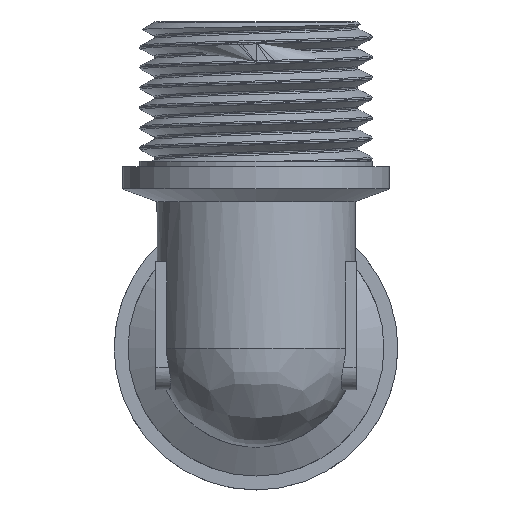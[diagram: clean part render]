
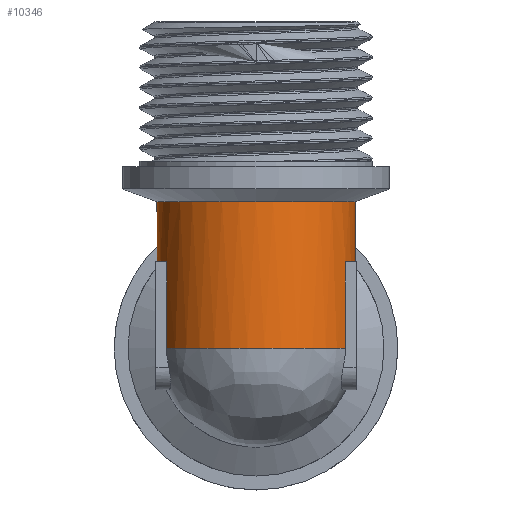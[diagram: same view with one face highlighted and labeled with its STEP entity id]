
A CAD part, front view. The second image highlights one B-rep face of the part: STEP entity #10346.
In plain terms, the highlighted cylindrical face has radius 8.9 mm (diameter 17.8 mm), a full revolution.
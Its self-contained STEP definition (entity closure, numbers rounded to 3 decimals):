
#389=ELLIPSE('',#11032,12.587,8.9);
#1296=CYLINDRICAL_SURFACE('',#11029,8.9);
#1383=FACE_OUTER_BOUND('',#1971,.T.);
#1971=EDGE_LOOP('',(#7087,#7088,#7089,#7090,#7091,#7092,#7093,#7094,#7095,
#7096,#7097,#7098,#7099,#7100,#7101,#7102));
#2610=LINE('',#13535,#3282);
#2611=LINE('',#13539,#3283);
#2612=LINE('',#13547,#3284);
#2613=LINE('',#13551,#3285);
#2614=LINE('',#13555,#3286);
#3282=VECTOR('',#11639,8.9);
#3283=VECTOR('',#11642,10.);
#3284=VECTOR('',#11649,10.);
#3285=VECTOR('',#11652,10.);
#3286=VECTOR('',#11655,10.);
#3969=CIRCLE('',#11026,8.9);
#3970=CIRCLE('',#11027,8.9);
#3971=CIRCLE('',#11028,8.9);
#3972=CIRCLE('',#11030,8.9);
#3973=CIRCLE('',#11031,8.9);
#3974=CIRCLE('',#11033,8.9);
#3975=CIRCLE('',#11034,8.9);
#3976=CIRCLE('',#11035,8.9);
#3977=CIRCLE('',#11036,8.9);
#4272=VERTEX_POINT('',#13526);
#4273=VERTEX_POINT('',#13527);
#4274=VERTEX_POINT('',#13529);
#4275=VERTEX_POINT('',#13534);
#4276=VERTEX_POINT('',#13536);
#4277=VERTEX_POINT('',#13538);
#4278=VERTEX_POINT('',#13540);
#4279=VERTEX_POINT('',#13542);
#4280=VERTEX_POINT('',#13544);
#4281=VERTEX_POINT('',#13546);
#4282=VERTEX_POINT('',#13548);
#4283=VERTEX_POINT('',#13550);
#4284=VERTEX_POINT('',#13552);
#4285=VERTEX_POINT('',#13554);
#5397=EDGE_CURVE('',#4272,#4273,#3969,.T.);
#5398=EDGE_CURVE('',#4274,#4272,#3970,.T.);
#5400=EDGE_CURVE('',#4273,#4274,#3971,.T.);
#5401=EDGE_CURVE('',#4273,#4275,#2610,.T.);
#5402=EDGE_CURVE('',#4275,#4276,#3972,.T.);
#5403=EDGE_CURVE('',#4276,#4277,#2611,.T.);
#5404=EDGE_CURVE('',#4277,#4278,#3973,.T.);
#5405=EDGE_CURVE('',#4279,#4278,#389,.T.);
#5406=EDGE_CURVE('',#4279,#4280,#3974,.T.);
#5407=EDGE_CURVE('',#4280,#4281,#2612,.T.);
#5408=EDGE_CURVE('',#4281,#4282,#3975,.T.);
#5409=EDGE_CURVE('',#4282,#4283,#2613,.T.);
#5410=EDGE_CURVE('',#4283,#4284,#3976,.T.);
#5411=EDGE_CURVE('',#4284,#4285,#2614,.T.);
#5412=EDGE_CURVE('',#4285,#4275,#3977,.T.);
#7087=ORIENTED_EDGE('',*,*,#5397,.T.);
#7088=ORIENTED_EDGE('',*,*,#5401,.T.);
#7089=ORIENTED_EDGE('',*,*,#5402,.T.);
#7090=ORIENTED_EDGE('',*,*,#5403,.T.);
#7091=ORIENTED_EDGE('',*,*,#5404,.T.);
#7092=ORIENTED_EDGE('',*,*,#5405,.F.);
#7093=ORIENTED_EDGE('',*,*,#5406,.T.);
#7094=ORIENTED_EDGE('',*,*,#5407,.T.);
#7095=ORIENTED_EDGE('',*,*,#5408,.T.);
#7096=ORIENTED_EDGE('',*,*,#5409,.T.);
#7097=ORIENTED_EDGE('',*,*,#5410,.T.);
#7098=ORIENTED_EDGE('',*,*,#5411,.T.);
#7099=ORIENTED_EDGE('',*,*,#5412,.T.);
#7100=ORIENTED_EDGE('',*,*,#5401,.F.);
#7101=ORIENTED_EDGE('',*,*,#5400,.T.);
#7102=ORIENTED_EDGE('',*,*,#5398,.T.);
#10346=ADVANCED_FACE('',(#1383),#1296,.T.);
#11026=AXIS2_PLACEMENT_3D('',#13528,#11630,#11631);
#11027=AXIS2_PLACEMENT_3D('',#13530,#11632,#11633);
#11028=AXIS2_PLACEMENT_3D('',#13532,#11635,#11636);
#11029=AXIS2_PLACEMENT_3D('',#13533,#11637,#11638);
#11030=AXIS2_PLACEMENT_3D('',#13537,#11640,#11641);
#11031=AXIS2_PLACEMENT_3D('',#13541,#11643,#11644);
#11032=AXIS2_PLACEMENT_3D('',#13543,#11645,#11646);
#11033=AXIS2_PLACEMENT_3D('',#13545,#11647,#11648);
#11034=AXIS2_PLACEMENT_3D('',#13549,#11650,#11651);
#11035=AXIS2_PLACEMENT_3D('',#13553,#11653,#11654);
#11036=AXIS2_PLACEMENT_3D('',#13556,#11656,#11657);
#11630=DIRECTION('center_axis',(0.,0.,-1.));
#11631=DIRECTION('ref_axis',(-1.,0.,0.));
#11632=DIRECTION('center_axis',(0.,0.,-1.));
#11633=DIRECTION('ref_axis',(-1.,0.,0.));
#11635=DIRECTION('center_axis',(0.,0.,-1.));
#11636=DIRECTION('ref_axis',(-1.,0.,0.));
#11637=DIRECTION('center_axis',(0.,0.,1.));
#11638=DIRECTION('ref_axis',(-1.,0.,0.));
#11639=DIRECTION('',(0.,0.,-1.));
#11640=DIRECTION('center_axis',(0.,0.,1.));
#11641=DIRECTION('ref_axis',(-1.,0.,0.));
#11642=DIRECTION('',(0.,0.,-1.));
#11643=DIRECTION('center_axis',(0.,0.,1.));
#11644=DIRECTION('ref_axis',(-1.,0.,0.));
#11645=DIRECTION('center_axis',(0.,0.707,-0.707));
#11646=DIRECTION('ref_axis',(0.,-0.707,-0.707));
#11647=DIRECTION('center_axis',(0.,0.,1.));
#11648=DIRECTION('ref_axis',(-1.,0.,0.));
#11649=DIRECTION('',(0.,0.,1.));
#11650=DIRECTION('center_axis',(0.,0.,1.));
#11651=DIRECTION('ref_axis',(-1.,0.,0.));
#11652=DIRECTION('',(0.,0.,-1.));
#11653=DIRECTION('center_axis',(0.,0.,1.));
#11654=DIRECTION('ref_axis',(-1.,0.,0.));
#11655=DIRECTION('',(0.,0.,1.));
#11656=DIRECTION('center_axis',(0.,0.,1.));
#11657=DIRECTION('ref_axis',(-1.,0.,0.));
#13526=CARTESIAN_POINT('',(0.,-34.6,13.172));
#13527=CARTESIAN_POINT('',(8.9,-43.5,13.172));
#13528=CARTESIAN_POINT('Origin',(0.,-43.5,13.172));
#13529=CARTESIAN_POINT('',(0.,-52.4,13.172));
#13530=CARTESIAN_POINT('Origin',(0.,-43.5,13.172));
#13532=CARTESIAN_POINT('Origin',(0.,-43.5,13.172));
#13533=CARTESIAN_POINT('Origin',(0.,-43.5,0.));
#13534=CARTESIAN_POINT('',(8.9,-43.5,7.738));
#13535=CARTESIAN_POINT('',(8.9,-43.5,0.));
#13536=CARTESIAN_POINT('',(8.108,-39.829,7.738));
#13537=CARTESIAN_POINT('Origin',(0.,-43.5,7.738));
#13538=CARTESIAN_POINT('',(8.108,-39.829,3.738));
#13539=CARTESIAN_POINT('',(8.108,-39.829,0.));
#13540=CARTESIAN_POINT('',(8.077,-39.762,3.738));
#13541=CARTESIAN_POINT('Origin',(0.,-43.5,3.738));
#13542=CARTESIAN_POINT('',(-8.077,-39.762,3.738));
#13543=CARTESIAN_POINT('Origin',(0.,-43.5,0.));
#13544=CARTESIAN_POINT('',(-8.108,-39.829,3.738));
#13545=CARTESIAN_POINT('Origin',(0.,-43.5,3.738));
#13546=CARTESIAN_POINT('',(-8.108,-39.829,7.738));
#13547=CARTESIAN_POINT('',(-8.108,-39.829,0.));
#13548=CARTESIAN_POINT('',(-8.034,-47.329,7.738));
#13549=CARTESIAN_POINT('Origin',(0.,-43.5,7.738));
#13550=CARTESIAN_POINT('',(-8.034,-47.329,0.));
#13551=CARTESIAN_POINT('',(-8.034,-47.329,0.));
#13552=CARTESIAN_POINT('',(8.034,-47.329,0.));
#13553=CARTESIAN_POINT('Origin',(0.,-43.5,0.));
#13554=CARTESIAN_POINT('',(8.034,-47.329,7.738));
#13555=CARTESIAN_POINT('',(8.034,-47.329,0.));
#13556=CARTESIAN_POINT('Origin',(0.,-43.5,7.738));
